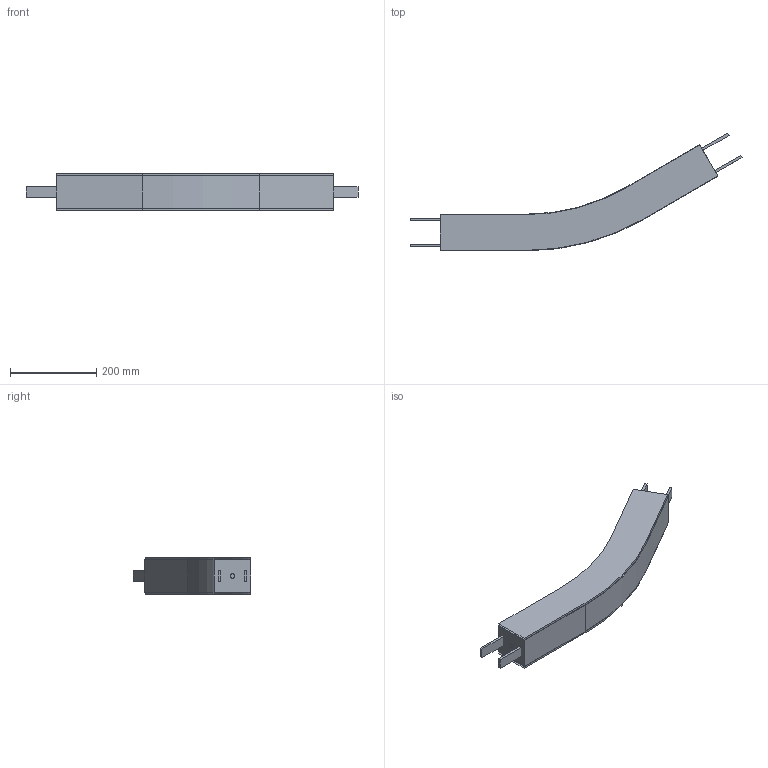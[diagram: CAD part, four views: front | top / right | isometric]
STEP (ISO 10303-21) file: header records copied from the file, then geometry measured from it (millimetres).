
FILE_DESCRIPTION(/* description */ ('Horizontaler Gleitbogen, 30°, R500'),/* implementation_level */ '2;1');
FILE_NAME(/* name */ 'T:\vdz0\Step Daten Website\modulflex FM-System\Horizontale Gleitbögen\FMBP 30R500_43815.stp',/* time_stamp */ '2024-09-03T10:26:22+02:00',/* author */ ('lzb0'),/* organization */ ('modular automation GmbH'),/* preprocessor_version */ 'ST-DEVELOPER v18.1',/* originating_system */ 'Autodesk Inventor 2021',/* authorisation */ '');
FILE_SCHEMA (('AUTOMOTIVE_DESIGN { 1 0 10303 214 3 1 1 }'));
Length unit declared in the file: millimetre
Products named in the file (1): FMBP 30R500
Bounding box: 770.33 x 273.07 x 85 mm (x, y, z)
Volume: 4302971.1 mm3; surface area: 494027.5 mm2
Topology: 5 solids, 9 shells, 52 faces, 126 edges, 84 vertices
Faces by surface type: plane 44, cylinder 8
Full cylindrical faces by diameter (mm): 10 x2
Entity records: 1596 total; most frequent: CARTESIAN_POINT 270, DIRECTION 250, ORIENTED_EDGE 232, EDGE_CURVE 126, LINE 110, VECTOR 110, VERTEX_POINT 84, AXIS2_PLACEMENT_3D 70
